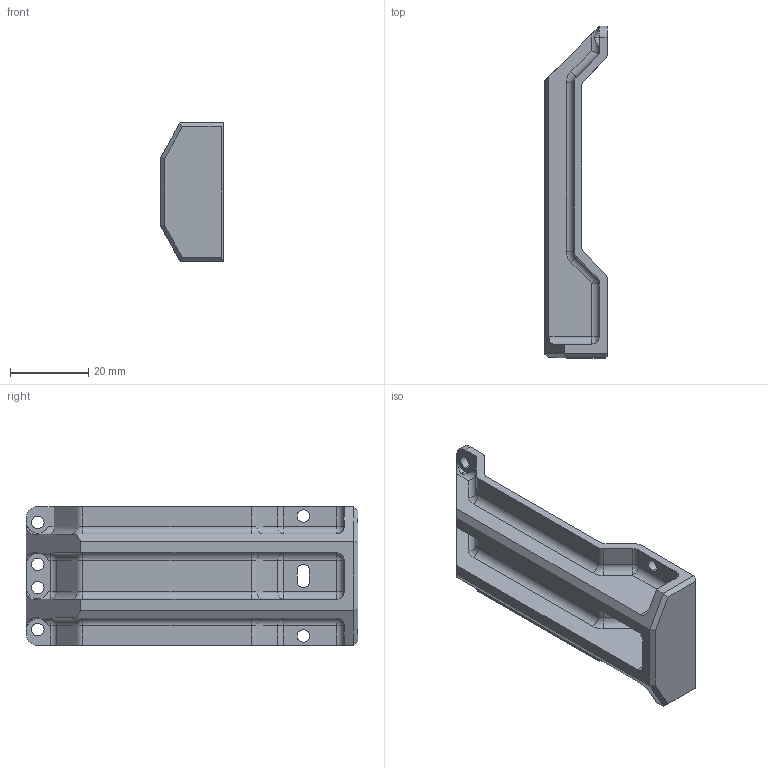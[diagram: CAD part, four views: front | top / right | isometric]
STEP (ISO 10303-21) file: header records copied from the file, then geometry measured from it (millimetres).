
FILE_DESCRIPTION (( 'STEP AP203' ), '1' );
FILE_NAME ('BR01_THIGH_SHIELD_LONG.STEP');
FILE_SCHEMA (( 'CONFIG_CONTROL_DESIGN' ));
Length unit declared in the file: millimetre
Products named in the file (1): BR01_THIGH_SHIELD_LONG
Bounding box: 16 x 85 x 35.5 mm (x, y, z)
Volume: 14823.1 mm3; surface area: 10095.7 mm2
Topology: 1 solids, 1 shells, 128 faces, 325 edges, 194 vertices
Faces by surface type: cylinder 65, plane 44, sphere 11, torus 8
Entity records: 3983 total; most frequent: CARTESIAN_POINT 770, DIRECTION 689, ORIENTED_EDGE 640, EDGE_CURVE 320, AXIS2_PLACEMENT_3D 253, VERTEX_POINT 194, VECTOR 183, LINE 183
